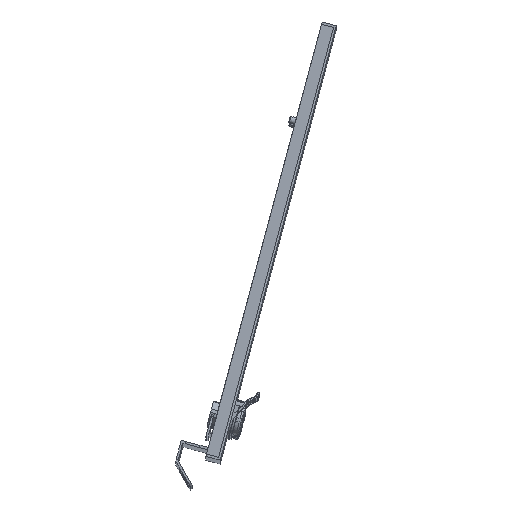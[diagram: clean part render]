
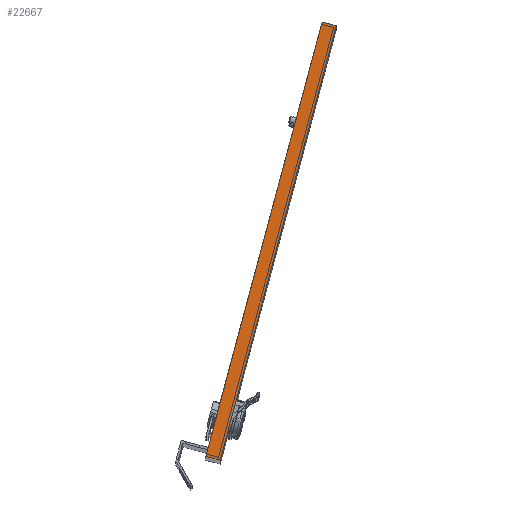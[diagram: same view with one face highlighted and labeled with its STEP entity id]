
A CAD part, top view. The second image highlights one B-rep face of the part: STEP entity #22667.
In plain terms, the highlighted planar face has unit normal (0, 0, 1).
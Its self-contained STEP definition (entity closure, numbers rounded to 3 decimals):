
#2681 = VERTEX_POINT ( 'NONE', #22305 ) ;
#3401 = CARTESIAN_POINT ( 'NONE',  ( -134.442, -507.311, 1145. ) ) ;
#5365 = EDGE_CURVE ( 'NONE', #2681, #18107, #18313, .T. ) ;
#8712 = PLANE ( 'NONE',  #24208 ) ;
#9515 = EDGE_CURVE ( 'NONE', #18107, #26368, #12804, .T. ) ;
#9859 = DIRECTION ( 'NONE',  ( 0.259, 0.966, 0. ) ) ;
#11206 = ORIENTED_EDGE ( 'NONE', *, *, #9515, .T. ) ;
#11232 = DIRECTION ( 'NONE',  ( -1., 0., 0. ) ) ;
#11639 = ORIENTED_EDGE ( 'NONE', *, *, #5365, .T. ) ;
#12698 = EDGE_CURVE ( 'NONE', #2681, #25282, #16880, .T. ) ;
#12804 = LINE ( 'NONE', #17849, #26681 ) ;
#14411 = CARTESIAN_POINT ( 'NONE',  ( -47.787, -121.6, 1145. ) ) ;
#16013 = CARTESIAN_POINT ( 'NONE',  ( -35.229, -124.961, 1145. ) ) ;
#16642 = FACE_OUTER_BOUND ( 'NONE', #24080, .T. ) ;
#16880 = LINE ( 'NONE', #3401, #26078 ) ;
#17849 = CARTESIAN_POINT ( 'NONE',  ( -32.304, -125.744, 1145. ) ) ;
#18107 = VERTEX_POINT ( 'NONE', #16013 ) ;
#18313 = LINE ( 'NONE', #18840, #32174 ) ;
#18840 = CARTESIAN_POINT ( 'NONE',  ( -86.298, -315.744, 1145. ) ) ;
#19435 = ORIENTED_EDGE ( 'NONE', *, *, #20602, .T. ) ;
#20602 = EDGE_CURVE ( 'NONE', #26368, #25282, #30113, .T. ) ;
#22305 = CARTESIAN_POINT ( 'NONE',  ( -137.367, -506.527, 1145. ) ) ;
#22355 = VECTOR ( 'NONE', #29952, 1000. ) ;
#22667 = ADVANCED_FACE ( 'NONE', ( #16642 ), #8712, .F. ) ;
#24080 = EDGE_LOOP ( 'NONE', ( #11639, #11206, #19435, #25188 ) ) ;
#24208 = AXIS2_PLACEMENT_3D ( 'NONE', #27261, #32982, #11232 ) ;
#25188 = ORIENTED_EDGE ( 'NONE', *, *, #12698, .F. ) ;
#25282 = VERTEX_POINT ( 'NONE', #28036 ) ;
#26078 = VECTOR ( 'NONE', #27844, 1000. ) ;
#26368 = VERTEX_POINT ( 'NONE', #14411 ) ;
#26681 = VECTOR ( 'NONE', #28993, 1000. ) ;
#27084 = CARTESIAN_POINT ( 'NONE',  ( -98.856, -312.383, 1145. ) ) ;
#27261 = CARTESIAN_POINT ( 'NONE',  ( -86.298, -315.744, 1145. ) ) ;
#27844 = DIRECTION ( 'NONE',  ( -0.966, 0.259, 0. ) ) ;
#28036 = CARTESIAN_POINT ( 'NONE',  ( -149.925, -503.166, 1145. ) ) ;
#28993 = DIRECTION ( 'NONE',  ( -0.966, 0.259, 0. ) ) ;
#29952 = DIRECTION ( 'NONE',  ( -0.259, -0.966, 0. ) ) ;
#30113 = LINE ( 'NONE', #27084, #22355 ) ;
#32174 = VECTOR ( 'NONE', #9859, 1000. ) ;
#32982 = DIRECTION ( 'NONE',  ( 0., 0., -1. ) ) ;
